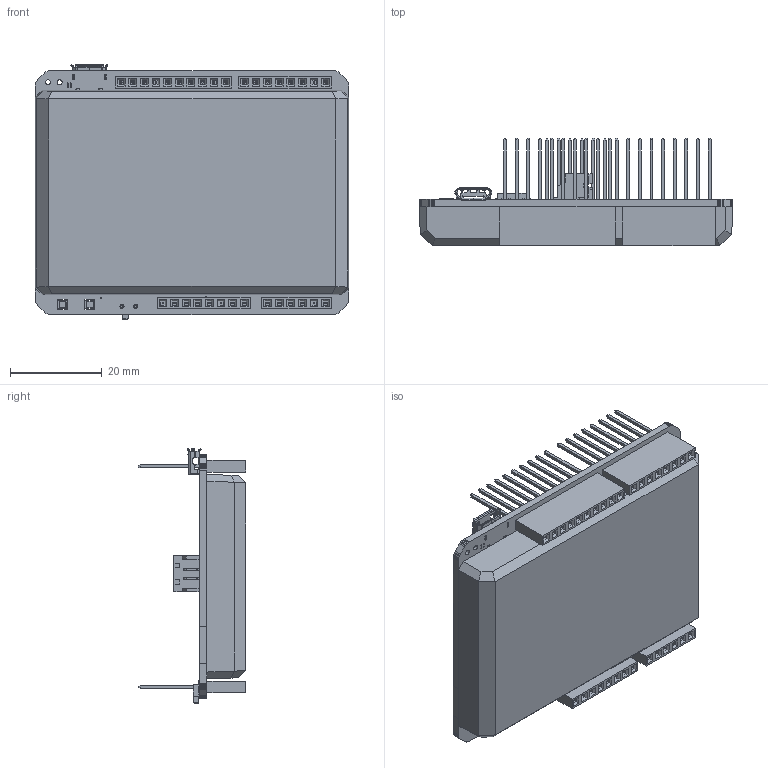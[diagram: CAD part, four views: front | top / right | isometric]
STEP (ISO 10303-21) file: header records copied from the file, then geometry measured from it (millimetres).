
FILE_DESCRIPTION (( 'STEP AP214' ), '1' );
FILE_NAME ('NightShade energyShield 2 Basic.STEP', '2017-05-16T20:08:21', ( '' ), ( '' ), 'SwSTEP 2.0', 'SolidWorks 2015', '' );
FILE_SCHEMA (( 'AUTOMOTIVE_DESIGN' ));
Length unit declared in the file: millimetre
Products named in the file (9): S2B-PH-SM4-TB; LTST-C230KRKT; Header 10 Pin; Header 8 Pin; Header 6 Pin; eS2 PCB; NightShade energyShield 2 Basic; Switch; 10118194-001lfc
Assembly tree (10 placements, depth 2):
  NightShade energyShield 2 Basic
    eS2 PCB
    Header 6 Pin
    Header 8 Pin  x2
    Header 10 Pin
    10118194-001lfc
    LTST-C230KRKT  x2
    S2B-PH-SM4-TB
    Switch
Bounding box: 68.58 x 23.5 x 55.61 mm (x, y, z)
Volume: 32909.1 mm3; surface area: 20498.1 mm2
Topology: 13 solids, 13 shells, 1830 faces, 4820 edges, 3104 vertices
Faces by surface type: plane 1155, cylinder 663, cone 12
Entity records: 60284 total; most frequent: CARTESIAN_POINT 11039, ORIENTED_EDGE 8806, DIRECTION 8136, EDGE_CURVE 4403, VECTOR 2924, LINE 2924, VERTEX_POINT 2848, AXIS2_PLACEMENT_3D 2606
